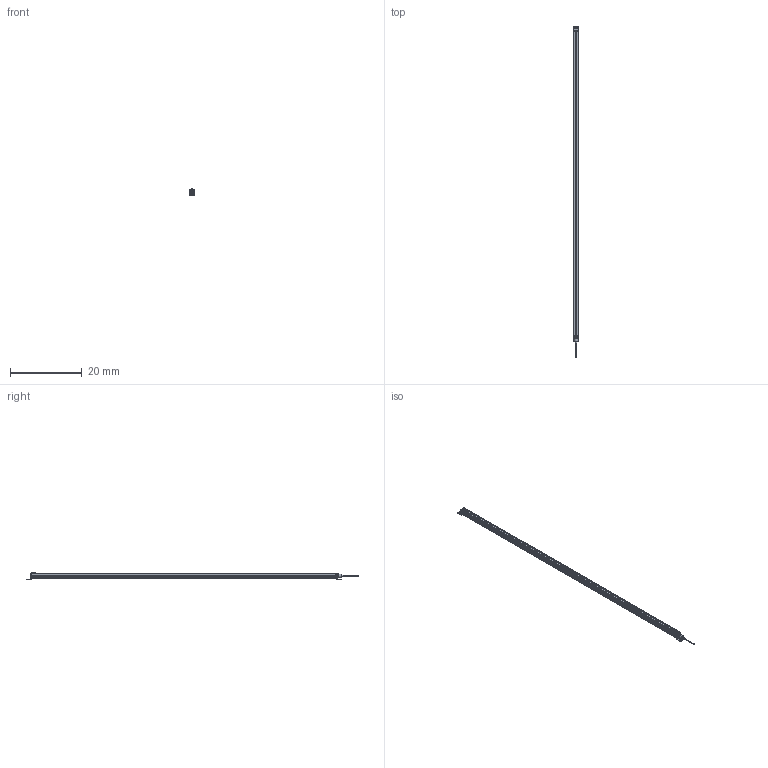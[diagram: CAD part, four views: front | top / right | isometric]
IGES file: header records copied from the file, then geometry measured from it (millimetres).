
Start section:  Autodesk DirectConnect version 7.0.27.0 ---- IGES version 5.3
Global section: file name: C:\ACADFILES\MG_PYLONS\CUSTOMER_FILES\MG-84-PYLON_3D_L.iges; native system: Autodesk DirectConnect 7.0.27.0; preprocessor: 7.0.27.0; author: ENGINEERMAIN; organization: Unknown; date: 20150810.143653; units: millimetre
Bounding box: 1.46 x 92.85 x 2.11 mm (x, y, z)
Surface area: 1259.6 mm2 (no closed solid volume)
Topology: 0 solids, 0 shells, 630 faces, 3369 edges, 3383 vertices
Faces by surface type: bspline 630
